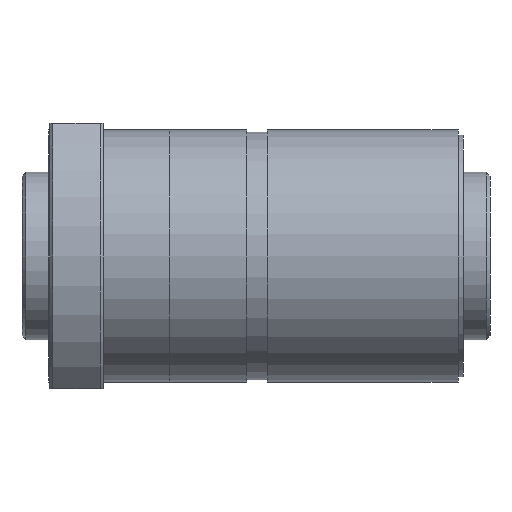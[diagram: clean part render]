
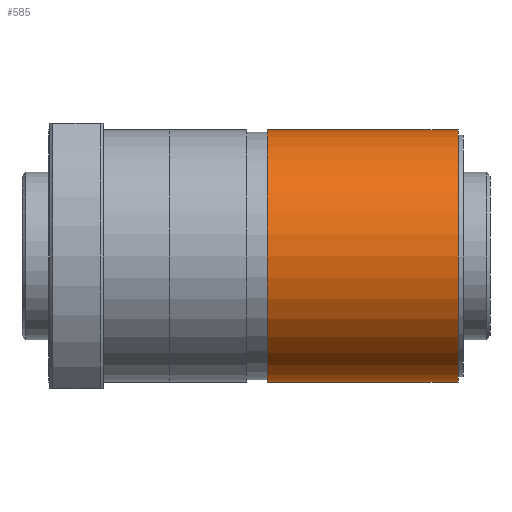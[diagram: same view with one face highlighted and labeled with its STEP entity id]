
A CAD part, front view. The second image highlights one B-rep face of the part: STEP entity #585.
In plain terms, the highlighted cylindrical face has radius 47.5 mm (diameter 95 mm), a full revolution.
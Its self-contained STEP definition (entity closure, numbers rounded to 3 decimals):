
#61=CYLINDRICAL_SURFACE('',#669,47.5);
#120=ORIENTED_EDGE('',*,*,#238,.T.);
#121=ORIENTED_EDGE('',*,*,#237,.F.);
#237=EDGE_CURVE('',#299,#299,#347,.T.);
#238=EDGE_CURVE('',#300,#300,#348,.T.);
#299=VERTEX_POINT('',#1012);
#300=VERTEX_POINT('',#1015);
#347=CIRCLE('',#668,47.5);
#348=CIRCLE('',#670,47.5);
#402=EDGE_LOOP('',(#120));
#403=EDGE_LOOP('',(#121));
#492=FACE_BOUND('',#402,.T.);
#493=FACE_BOUND('',#403,.T.);
#585=ADVANCED_FACE('',(#492,#493),#61,.T.);
#668=AXIS2_PLACEMENT_3D('',#1011,#793,#794);
#669=AXIS2_PLACEMENT_3D('',#1013,#795,#796);
#670=AXIS2_PLACEMENT_3D('',#1014,#797,#798);
#793=DIRECTION('',(1.,0.,0.));
#794=DIRECTION('',(0.,0.,-1.));
#795=DIRECTION('',(1.,0.,0.));
#796=DIRECTION('',(0.,0.,-1.));
#797=DIRECTION('',(1.,0.,0.));
#798=DIRECTION('',(0.,0.,-1.));
#1011=CARTESIAN_POINT('',(154.,0.,0.));
#1012=CARTESIAN_POINT('',(154.,0.,-47.5));
#1013=CARTESIAN_POINT('',(156.,0.,0.));
#1014=CARTESIAN_POINT('',(82.3,0.,0.));
#1015=CARTESIAN_POINT('',(82.3,0.,-47.5));
